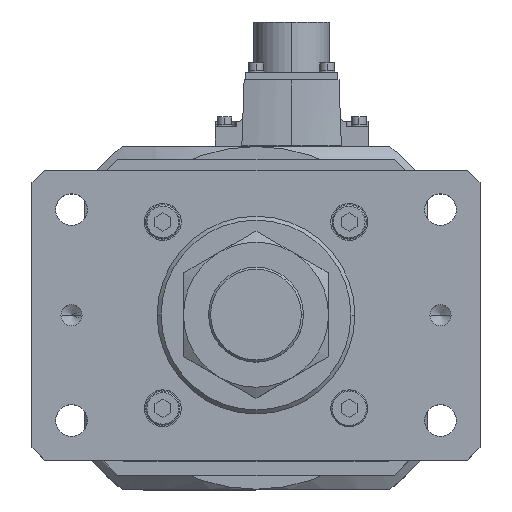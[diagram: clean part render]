
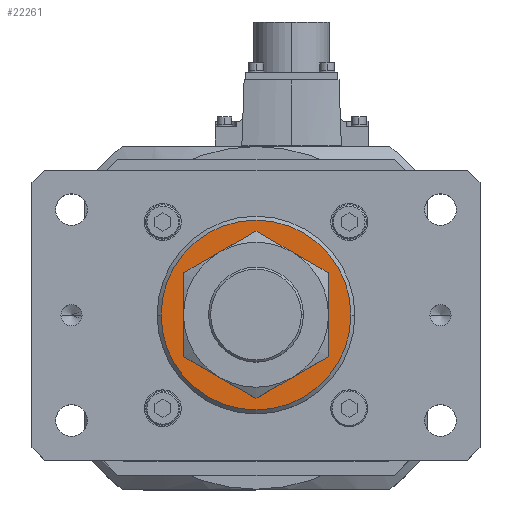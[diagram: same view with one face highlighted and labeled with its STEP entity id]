
A CAD part, top view. The second image highlights one B-rep face of the part: STEP entity #22261.
In plain terms, the highlighted planar face has unit normal (0, 0, 1).
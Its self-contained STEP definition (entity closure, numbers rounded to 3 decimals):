
#908 = CARTESIAN_POINT ( 'NONE',  ( 0., 0., 346. ) ) ;
#1633 = DIRECTION ( 'NONE',  ( 1., 0., 0. ) ) ;
#2760 = ORIENTED_EDGE ( 'NONE', *, *, #17981, .T. ) ;
#4188 = DIRECTION ( 'NONE',  ( 0., 0., 1. ) ) ;
#4954 = EDGE_LOOP ( 'NONE', ( #22087, #32600 ) ) ;
#4988 = CARTESIAN_POINT ( 'NONE',  ( -36., 0., 346. ) ) ;
#6359 = CARTESIAN_POINT ( 'NONE',  ( -23., 0., 346. ) ) ;
#6674 = CIRCLE ( 'NONE', #18369, 23. ) ;
#7042 = AXIS2_PLACEMENT_3D ( 'NONE', #908, #20865, #9145 ) ;
#7135 = CARTESIAN_POINT ( 'NONE',  ( 0., 0., 346. ) ) ;
#9145 = DIRECTION ( 'NONE',  ( 1., 0., 0. ) ) ;
#9878 = VERTEX_POINT ( 'NONE', #4988 ) ;
#10393 = CIRCLE ( 'NONE', #11808, 36. ) ;
#11808 = AXIS2_PLACEMENT_3D ( 'NONE', #26640, #4188, #24162 ) ;
#12435 = VERTEX_POINT ( 'NONE', #31269 ) ;
#14088 = ORIENTED_EDGE ( 'NONE', *, *, #14992, .T. ) ;
#14190 = DIRECTION ( 'NONE',  ( 1., 0., 0. ) ) ;
#14976 = AXIS2_PLACEMENT_3D ( 'NONE', #7135, #27081, #1633 ) ;
#14992 = EDGE_CURVE ( 'NONE', #31076, #34839, #34910, .T. ) ;
#16278 = FACE_BOUND ( 'NONE', #22115, .T. ) ;
#16934 = CARTESIAN_POINT ( 'NONE',  ( 0., 0., 346. ) ) ;
#17981 = EDGE_CURVE ( 'NONE', #34839, #31076, #6674, .T. ) ;
#18369 = AXIS2_PLACEMENT_3D ( 'NONE', #25851, #20361, #20607 ) ;
#20361 = DIRECTION ( 'NONE',  ( 0., 0., -1. ) ) ;
#20607 = DIRECTION ( 'NONE',  ( 1., 0., 0. ) ) ;
#20694 = AXIS2_PLACEMENT_3D ( 'NONE', #16934, #22714, #14190 ) ;
#20865 = DIRECTION ( 'NONE',  ( 0., 0., 1. ) ) ;
#21669 = FACE_OUTER_BOUND ( 'NONE', #4954, .T. ) ;
#22087 = ORIENTED_EDGE ( 'NONE', *, *, #31248, .T. ) ;
#22115 = EDGE_LOOP ( 'NONE', ( #14088, #2760 ) ) ;
#22261 = ADVANCED_FACE ( 'NONE', ( #16278, #21669 ), #26462, .T. ) ;
#22714 = DIRECTION ( 'NONE',  ( 0., 0., -1. ) ) ;
#23420 = CARTESIAN_POINT ( 'NONE',  ( 23., 0., 346. ) ) ;
#24162 = DIRECTION ( 'NONE',  ( 1., 0., 0. ) ) ;
#25851 = CARTESIAN_POINT ( 'NONE',  ( 0., 0., 346. ) ) ;
#26462 = PLANE ( 'NONE',  #7042 ) ;
#26640 = CARTESIAN_POINT ( 'NONE',  ( 0., 0., 346. ) ) ;
#27081 = DIRECTION ( 'NONE',  ( 0., 0., 1. ) ) ;
#31076 = VERTEX_POINT ( 'NONE', #23420 ) ;
#31248 = EDGE_CURVE ( 'NONE', #9878, #12435, #10393, .T. ) ;
#31269 = CARTESIAN_POINT ( 'NONE',  ( 36., 0., 346. ) ) ;
#32600 = ORIENTED_EDGE ( 'NONE', *, *, #33200, .T. ) ;
#33200 = EDGE_CURVE ( 'NONE', #12435, #9878, #33795, .T. ) ;
#33795 = CIRCLE ( 'NONE', #14976, 36. ) ;
#34839 = VERTEX_POINT ( 'NONE', #6359 ) ;
#34910 = CIRCLE ( 'NONE', #20694, 23. ) ;
